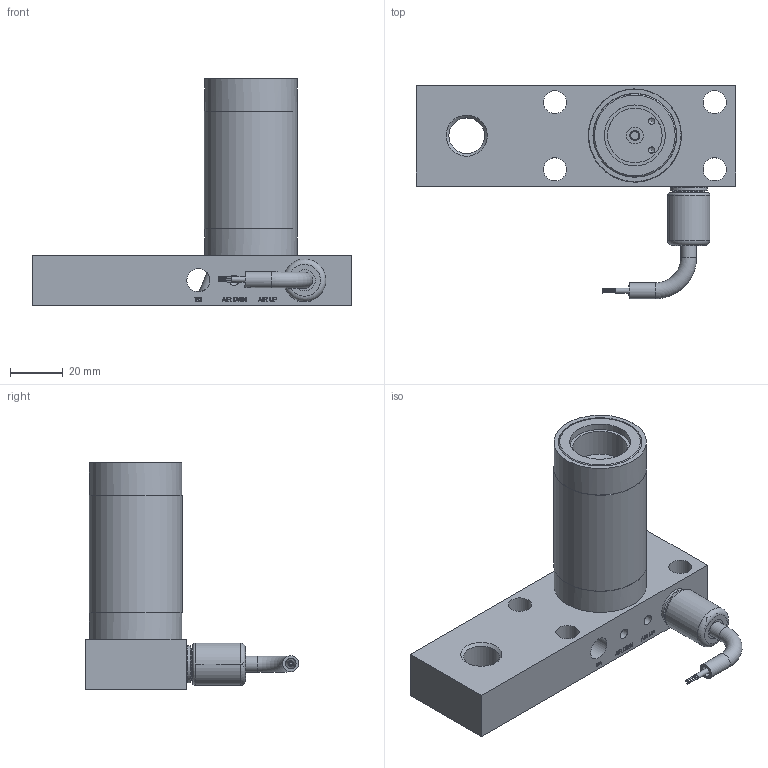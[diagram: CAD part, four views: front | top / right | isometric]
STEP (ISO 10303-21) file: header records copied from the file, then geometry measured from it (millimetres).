
FILE_DESCRIPTION(/* description */ ('ASSY,BODY,VF,LVDT,SXHR3,NHP'),/* implementation_level */ '2;1');
FILE_NAME(/* name */ 'C:\LVDT UPDATES\ASSY,BODY,VF,LVDT,SXHR3,NHP_0000838786.stp',/* time_stamp */ '2017-06-09T11:09:34-04:00',/* author */ ('tim.mcwilliams'),/* organization */ (''),/* preprocessor_version */ 'ST-DEVELOPER v16.5',/* originating_system */ 'Autodesk Inventor 2017',/* authorisation */ '');
FILE_SCHEMA (('AUTOMOTIVE_DESIGN { 1 0 10303 214 3 1 1 }'));
Products named in the file (1): ASSY,BODY,VF,LVDT,SXHR3,NHP
Bounding box: 120.65 x 80.63 x 85.72 mm (x, y, z)
Volume: 123140.4 mm3; surface area: 58112.9 mm2
Topology: 2 solids, 6 shells, 1271 faces, 3333 edges, 2199 vertices
Faces by surface type: plane 636, bspline 412, cylinder 150, cone 47, torus 20, sphere 6
Full cylindrical faces by diameter (mm): 0.5 x4, 0.55 x15, 2 x1, 2.381 x2, 3 x1, 3.15 x2, 3.175 x4, 3.2 x1, 3.81 x1, 3.962 x4, 4 x3, 4.763 x3, 6 x3, 6.35 x1, 7 x1, 8 x1, 8.731 x4, 8.738 x4, 10 x1, 12.01 x1, 12.141 x1, 12.7 x3, 13.487 x1, 13.665 x1, 13.716 x1, 14 x2, 15.206 x1, 16 x1, 20.637 x2, 23.019 x1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
Entity records: 94435 total; most frequent: CARTESIAN_POINT 64921, ORIENTED_EDGE 6280, DIRECTION 4554, EDGE_CURVE 3140, VERTEX_POINT 2138, LINE 1844, VECTOR 1844, EDGE_LOOP 1570
